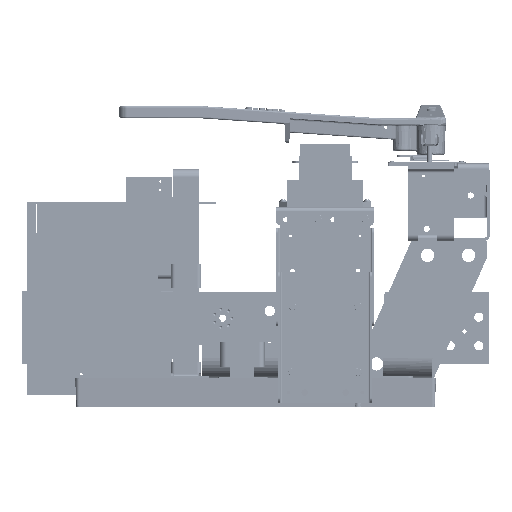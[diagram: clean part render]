
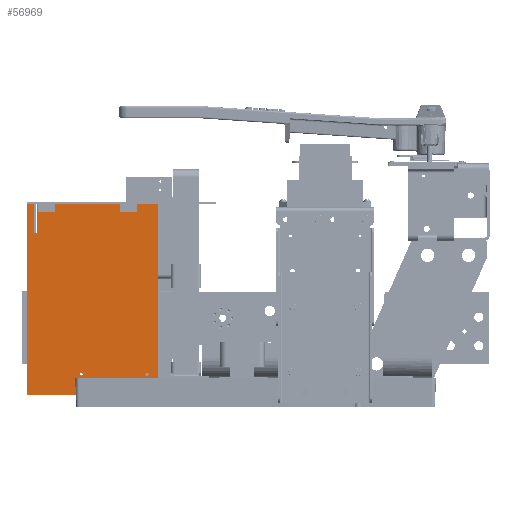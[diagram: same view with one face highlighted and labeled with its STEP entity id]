
A CAD part, left-side view. The second image highlights one B-rep face of the part: STEP entity #56969.
In plain terms, the highlighted planar face has unit normal (-1, 0, 0) as drawn and (0, 0, -1) by its records, which use the part's own axes.
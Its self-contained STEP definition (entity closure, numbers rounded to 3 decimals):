
#2644=FACE_BOUND('',#11816,.T.);
#2645=FACE_BOUND('',#11817,.T.);
#2646=FACE_BOUND('',#11818,.T.);
#2647=FACE_BOUND('',#11819,.T.);
#4504=CIRCLE('',#62937,0.097);
#4506=CIRCLE('',#62940,0.097);
#4508=CIRCLE('',#62943,0.097);
#4510=CIRCLE('',#62946,0.097);
#8172=FACE_OUTER_BOUND('',#11815,.T.);
#11815=EDGE_LOOP('',(#45298,#45299,#45300,#45301,#45302,#45303,#45304,#45305,
#45306,#45307,#45308,#45309));
#11816=EDGE_LOOP('',(#45310));
#11817=EDGE_LOOP('',(#45311));
#11818=EDGE_LOOP('',(#45312));
#11819=EDGE_LOOP('',(#45313));
#16245=LINE('',#91636,#21198);
#16249=LINE('',#91644,#21202);
#16252=LINE('',#91650,#21205);
#16255=LINE('',#91656,#21208);
#16258=LINE('',#91662,#21211);
#16261=LINE('',#91668,#21214);
#16264=LINE('',#91674,#21217);
#16267=LINE('',#91680,#21220);
#16270=LINE('',#91686,#21223);
#16273=LINE('',#91692,#21226);
#16276=LINE('',#91698,#21229);
#16279=LINE('',#91703,#21232);
#21198=VECTOR('',#74483,0.394);
#21202=VECTOR('',#74489,0.394);
#21205=VECTOR('',#74494,0.394);
#21208=VECTOR('',#74499,0.394);
#21211=VECTOR('',#74504,0.394);
#21214=VECTOR('',#74509,0.394);
#21217=VECTOR('',#74514,0.394);
#21220=VECTOR('',#74519,0.394);
#21223=VECTOR('',#74524,0.394);
#21226=VECTOR('',#74529,0.394);
#21229=VECTOR('',#74534,0.394);
#21232=VECTOR('',#74539,0.394);
#26367=VERTEX_POINT('',#91610);
#26369=VERTEX_POINT('',#91616);
#26371=VERTEX_POINT('',#91622);
#26373=VERTEX_POINT('',#91628);
#26375=VERTEX_POINT('',#91634);
#26376=VERTEX_POINT('',#91635);
#26379=VERTEX_POINT('',#91643);
#26381=VERTEX_POINT('',#91649);
#26383=VERTEX_POINT('',#91655);
#26385=VERTEX_POINT('',#91661);
#26387=VERTEX_POINT('',#91667);
#26389=VERTEX_POINT('',#91673);
#26391=VERTEX_POINT('',#91679);
#26393=VERTEX_POINT('',#91685);
#26395=VERTEX_POINT('',#91691);
#26397=VERTEX_POINT('',#91697);
#33044=EDGE_CURVE('',#26367,#26367,#4504,.T.);
#33047=EDGE_CURVE('',#26369,#26369,#4506,.T.);
#33050=EDGE_CURVE('',#26371,#26371,#4508,.T.);
#33053=EDGE_CURVE('',#26373,#26373,#4510,.T.);
#33056=EDGE_CURVE('',#26375,#26376,#16245,.T.);
#33060=EDGE_CURVE('',#26379,#26375,#16249,.T.);
#33063=EDGE_CURVE('',#26381,#26379,#16252,.T.);
#33066=EDGE_CURVE('',#26383,#26381,#16255,.T.);
#33069=EDGE_CURVE('',#26385,#26383,#16258,.T.);
#33072=EDGE_CURVE('',#26387,#26385,#16261,.T.);
#33075=EDGE_CURVE('',#26389,#26387,#16264,.T.);
#33078=EDGE_CURVE('',#26391,#26389,#16267,.T.);
#33081=EDGE_CURVE('',#26393,#26391,#16270,.T.);
#33084=EDGE_CURVE('',#26395,#26393,#16273,.T.);
#33087=EDGE_CURVE('',#26397,#26395,#16276,.T.);
#33090=EDGE_CURVE('',#26376,#26397,#16279,.T.);
#45298=ORIENTED_EDGE('',*,*,#33090,.F.);
#45299=ORIENTED_EDGE('',*,*,#33056,.F.);
#45300=ORIENTED_EDGE('',*,*,#33060,.F.);
#45301=ORIENTED_EDGE('',*,*,#33063,.F.);
#45302=ORIENTED_EDGE('',*,*,#33066,.F.);
#45303=ORIENTED_EDGE('',*,*,#33069,.F.);
#45304=ORIENTED_EDGE('',*,*,#33072,.F.);
#45305=ORIENTED_EDGE('',*,*,#33075,.F.);
#45306=ORIENTED_EDGE('',*,*,#33078,.F.);
#45307=ORIENTED_EDGE('',*,*,#33081,.F.);
#45308=ORIENTED_EDGE('',*,*,#33084,.F.);
#45309=ORIENTED_EDGE('',*,*,#33087,.F.);
#45310=ORIENTED_EDGE('',*,*,#33044,.T.);
#45311=ORIENTED_EDGE('',*,*,#33047,.T.);
#45312=ORIENTED_EDGE('',*,*,#33050,.T.);
#45313=ORIENTED_EDGE('',*,*,#33053,.T.);
#54551=PLANE('',#62961);
#56969=ADVANCED_FACE('',(#8172,#2644,#2645,#2646,#2647),#54551,.F.);
#62937=AXIS2_PLACEMENT_3D('',#91611,#74455,#74456);
#62940=AXIS2_PLACEMENT_3D('',#91617,#74462,#74463);
#62943=AXIS2_PLACEMENT_3D('',#91623,#74469,#74470);
#62946=AXIS2_PLACEMENT_3D('',#91629,#74476,#74477);
#62961=AXIS2_PLACEMENT_3D('',#91706,#74543,#74544);
#74455=DIRECTION('center_axis',(0.,0.,1.));
#74456=DIRECTION('ref_axis',(-1.,0.,0.));
#74462=DIRECTION('center_axis',(0.,0.,1.));
#74463=DIRECTION('ref_axis',(-1.,0.,0.));
#74469=DIRECTION('center_axis',(0.,0.,1.));
#74470=DIRECTION('ref_axis',(-1.,0.,0.));
#74476=DIRECTION('center_axis',(0.,0.,1.));
#74477=DIRECTION('ref_axis',(-1.,0.,0.));
#74483=DIRECTION('',(1.,0.,0.));
#74489=DIRECTION('',(0.,1.,0.));
#74494=DIRECTION('',(1.,0.,0.));
#74499=DIRECTION('',(0.,-1.,0.));
#74504=DIRECTION('',(-1.,0.,0.));
#74509=DIRECTION('',(0.,-1.,0.));
#74514=DIRECTION('',(1.,0.,0.));
#74519=DIRECTION('',(0.,-1.,0.));
#74524=DIRECTION('',(-1.,0.,0.));
#74529=DIRECTION('',(0.,1.,0.));
#74534=DIRECTION('',(1.,0.,0.));
#74539=DIRECTION('',(0.,-1.,0.));
#74543=DIRECTION('center_axis',(0.,0.,1.));
#74544=DIRECTION('ref_axis',(1.,0.,0.));
#91610=CARTESIAN_POINT('',(0.347,2.,0.));
#91611=CARTESIAN_POINT('Origin',(0.25,2.,0.));
#91616=CARTESIAN_POINT('',(0.347,7.,0.));
#91617=CARTESIAN_POINT('Origin',(0.25,7.,0.));
#91622=CARTESIAN_POINT('',(10.472,0.688,0.));
#91623=CARTESIAN_POINT('Origin',(10.375,0.688,0.));
#91628=CARTESIAN_POINT('',(10.472,4.688,0.));
#91629=CARTESIAN_POINT('Origin',(10.375,4.688,0.));
#91634=CARTESIAN_POINT('',(10.625,5.094,0.));
#91635=CARTESIAN_POINT('',(11.156,5.094,0.));
#91636=CARTESIAN_POINT('',(10.625,5.094,0.));
#91643=CARTESIAN_POINT('',(10.625,0.,0.));
#91644=CARTESIAN_POINT('',(10.625,0.,0.));
#91649=CARTESIAN_POINT('',(0.,0.,0.));
#91650=CARTESIAN_POINT('',(0.,0.,0.));
#91655=CARTESIAN_POINT('',(0.,7.422,0.));
#91656=CARTESIAN_POINT('',(0.,7.422,0.));
#91661=CARTESIAN_POINT('',(1.75,7.422,0.));
#91662=CARTESIAN_POINT('',(1.75,7.422,0.));
#91667=CARTESIAN_POINT('',(1.75,7.578,0.));
#91668=CARTESIAN_POINT('',(1.75,7.578,0.));
#91673=CARTESIAN_POINT('',(0.,7.578,0.));
#91674=CARTESIAN_POINT('',(0.,7.578,0.));
#91679=CARTESIAN_POINT('',(0.,8.,0.));
#91680=CARTESIAN_POINT('',(0.,8.,0.));
#91685=CARTESIAN_POINT('',(11.625,8.,0.));
#91686=CARTESIAN_POINT('',(11.625,8.,0.));
#91691=CARTESIAN_POINT('',(11.625,4.719,0.));
#91692=CARTESIAN_POINT('',(11.625,4.719,0.));
#91697=CARTESIAN_POINT('',(11.156,4.719,0.));
#91698=CARTESIAN_POINT('',(11.156,4.719,0.));
#91703=CARTESIAN_POINT('',(11.156,5.094,0.));
#91706=CARTESIAN_POINT('Origin',(5.401,4.41,0.));
